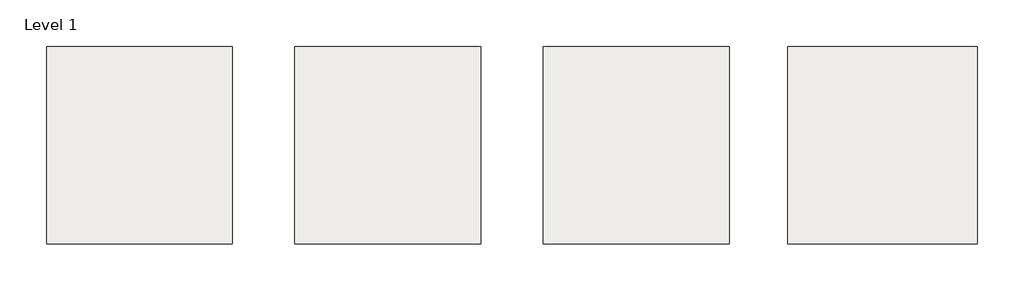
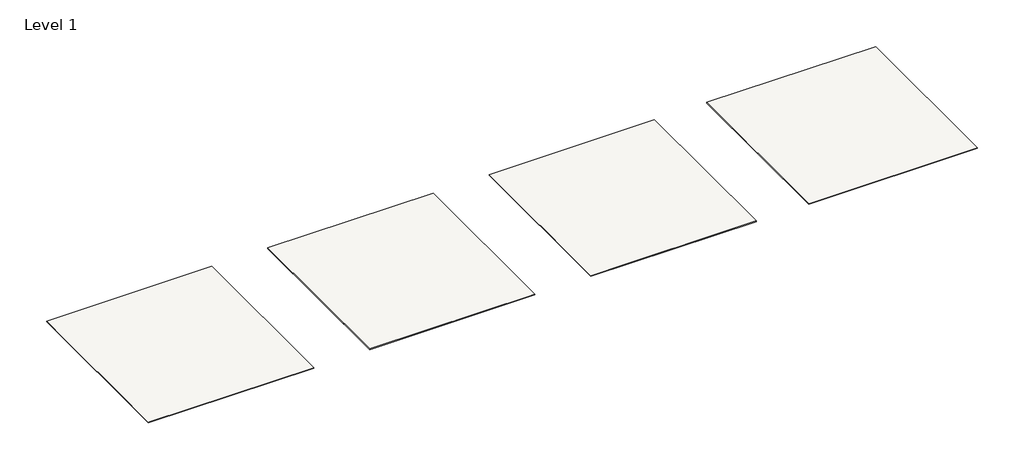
# One storey: 4 coverings.
"""IFC4 building model written with IfcOpenShell, lengths in millimetres."""

from ifc_helpers import new_model, si_unit, origin, origin_with_axes, place, context, project, spatial, polyline, outline, extrude, element, save

model = new_model("IFC4")

# Units and contexts
model_context = context("Model", 3, world=origin())
ifc_project = project(units=[si_unit("LENGTHUNIT", "METRE", prefix="MILLI")], contexts=[model_context])

# Site, building, storey
site = spatial("IfcSite", under=ifc_project)
building = spatial("IfcBuilding", under=site)
storey = spatial("IfcBuildingStorey", under=building, Name="Level 1", Elevation=0.0)

# Coverings
placement = place(None, origin())
element("IfcCovering", 1, ObjectType="Planar Macro - 4''x12'x0.875”", at=placement, inside=storey, context=model_context, shape_type="SweptSolid", body=[
    extrude(outline(polyline([(-3043.4571044, 1652.5930834), (-3043.4571044, -3224.2069166), (-7615.4571044, -3224.2069166), (-7615.4571044, 1652.5930834), (-3043.4571044, 1652.5930834)])), origin_with_axes(), (0.0, 0.0, 1.0), 22.225),
])
element("IfcCovering", 2, ObjectType="Planar Macro - 6''x12'x0.875”", at=placement, inside=storey, context=model_context, shape_type="SweptSolid", body=[
    extrude(outline(polyline([(3077.9428956, 1652.5930834), (3077.9428956, -3224.2069166), (-1494.0571044, -3224.2069166), (-1494.0571044, 1652.5930834), (3077.9428956, 1652.5930834)])), origin_with_axes(), (0.0, 0.0, 1.0), 22.225),
])
element("IfcCovering", 3, ObjectType="Planar Macro - 8''x12'x0.875”", at=placement, inside=storey, context=model_context, shape_type="SweptSolid", body=[
    extrude(outline(polyline([(9199.3428956, 1652.5930834), (9199.3428956, -3224.2069166), (4525.7428956, -3224.2069166), (4525.7428956, 1652.5930834), (9199.3428956, 1652.5930834)])), origin_with_axes(), (0.0, 0.0, 1.0), 22.225),
])
element("IfcCovering", 4, ObjectType="Planar Macro - 2''x12'x0.875”", at=placement, inside=storey, context=model_context, shape_type="SweptSolid", body=[
    extrude(outline(polyline([(-9164.8571044, 1652.5930834), (-9164.8571044, -3224.2069166), (-13736.8571044, -3224.2069166), (-13736.8571044, 1652.5930834), (-9164.8571044, 1652.5930834)])), origin_with_axes(), (0.0, 0.0, 1.0), 22.225),
])

save(model, "model.ifc")
